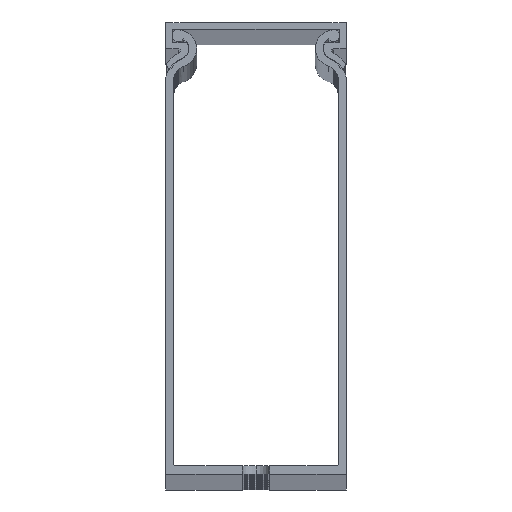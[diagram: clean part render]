
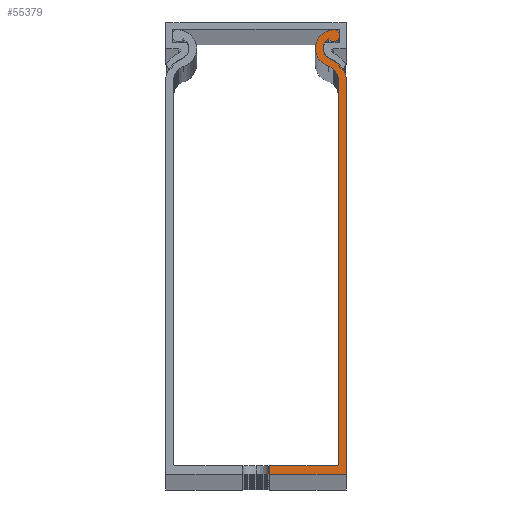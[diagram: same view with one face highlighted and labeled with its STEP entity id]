
A CAD part, top view. The second image highlights one B-rep face of the part: STEP entity #55379.
In plain terms, the highlighted planar face has unit normal (0, 0, 1).
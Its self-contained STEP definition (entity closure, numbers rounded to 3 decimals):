
#102 = CARTESIAN_POINT ( 'NONE',  ( 2584.527, 1293.474, 2000. ) ) ;
#500 = VERTEX_POINT ( 'NONE', #18729 ) ;
#2630 = PLANE ( 'NONE',  #16602 ) ;
#2652 = DIRECTION ( 'NONE',  ( 0., 1., 0. ) ) ;
#2683 = VECTOR ( 'NONE', #20155, 1000. ) ;
#3016 = VERTEX_POINT ( 'NONE', #35983 ) ;
#3104 = VERTEX_POINT ( 'NONE', #42812 ) ;
#3207 = VERTEX_POINT ( 'NONE', #43305 ) ;
#3462 = ORIENTED_EDGE ( 'NONE', *, *, #37895, .T. ) ;
#4241 = CARTESIAN_POINT ( 'NONE',  ( 2571.407, 1198.956, 2000. ) ) ;
#4716 = CARTESIAN_POINT ( 'NONE',  ( 2588.407, 1284.196, 2000. ) ) ;
#5355 = VERTEX_POINT ( 'NONE', #10616 ) ;
#8450 = VERTEX_POINT ( 'NONE', #38958 ) ;
#9179 = LINE ( 'NONE', #34416, #68796 ) ;
#9527 = ORIENTED_EDGE ( 'NONE', *, *, #16622, .T. ) ;
#10252 = VECTOR ( 'NONE', #63324, 1000. ) ;
#10609 = AXIS2_PLACEMENT_3D ( 'NONE', #38372, #62086, #45164 ) ;
#10616 = CARTESIAN_POINT ( 'NONE',  ( 2586.207, 1198.956, 2000. ) ) ;
#10898 = AXIS2_PLACEMENT_3D ( 'NONE', #46933, #12327, #12080 ) ;
#11216 = VECTOR ( 'NONE', #2652, 1000. ) ;
#12080 = DIRECTION ( 'NONE',  ( 1., 0., 0. ) ) ;
#12204 = AXIS2_PLACEMENT_3D ( 'NONE', #44964, #50760, #44722 ) ;
#12327 = DIRECTION ( 'NONE',  ( 0., 0., 1. ) ) ;
#13544 = ORIENTED_EDGE ( 'NONE', *, *, #52519, .T. ) ;
#14355 = CARTESIAN_POINT ( 'NONE',  ( 2586.707, 1284.203, 2000. ) ) ;
#14720 = CIRCLE ( 'NONE', #45336, 2.4 ) ;
#16602 = AXIS2_PLACEMENT_3D ( 'NONE', #20290, #71277, #36725 ) ;
#16622 = EDGE_CURVE ( 'NONE', #58955, #18721, #14720, .T. ) ;
#16778 = ORIENTED_EDGE ( 'NONE', *, *, #68363, .T. ) ;
#17094 = CARTESIAN_POINT ( 'NONE',  ( 2588.407, 1197.056, 2000. ) ) ;
#18721 = VERTEX_POINT ( 'NONE', #102 ) ;
#18729 = CARTESIAN_POINT ( 'NONE',  ( 2586.707, 1284.203, 2000. ) ) ;
#19854 = VECTOR ( 'NONE', #48719, 1000. ) ;
#19946 = CARTESIAN_POINT ( 'NONE',  ( 2588.407, 1197.056, 2000. ) ) ;
#20155 = DIRECTION ( 'NONE',  ( 1., 0., 0. ) ) ;
#20290 = CARTESIAN_POINT ( 'NONE',  ( 2553.507, 1284.233, 2000. ) ) ;
#21022 = EDGE_CURVE ( 'NONE', #74847, #58955, #39355, .T. ) ;
#21613 = ORIENTED_EDGE ( 'NONE', *, *, #53162, .T. ) ;
#22173 = CARTESIAN_POINT ( 'NONE',  ( 2585.655, 1291.356, 2000. ) ) ;
#24281 = CARTESIAN_POINT ( 'NONE',  ( 2585.655, 1291.356, 2000. ) ) ;
#24619 = EDGE_CURVE ( 'NONE', #3104, #8450, #59515, .T. ) ;
#25954 = DIRECTION ( 'NONE',  ( 1., 0., 0. ) ) ;
#26534 = VERTEX_POINT ( 'NONE', #4716 ) ;
#27003 = DIRECTION ( 'NONE',  ( 0., 0., -1. ) ) ;
#27939 = DIRECTION ( 'NONE',  ( 0., 0., 1. ) ) ;
#28024 = ORIENTED_EDGE ( 'NONE', *, *, #29823, .T. ) ;
#28414 = DIRECTION ( 'NONE',  ( -1., 0., 0. ) ) ;
#28782 = AXIS2_PLACEMENT_3D ( 'NONE', #62490, #27939, #62239 ) ;
#29491 = ORIENTED_EDGE ( 'NONE', *, *, #21022, .T. ) ;
#29823 = EDGE_CURVE ( 'NONE', #26534, #74847, #37968, .T. ) ;
#30714 = EDGE_CURVE ( 'NONE', #500, #63301, #46962, .T. ) ;
#32174 = ORIENTED_EDGE ( 'NONE', *, *, #66365, .T. ) ;
#32787 = DIRECTION ( 'NONE',  ( 1., 0., 0. ) ) ;
#33005 = VERTEX_POINT ( 'NONE', #19946 ) ;
#33053 = AXIS2_PLACEMENT_3D ( 'NONE', #72533, #43815, #25954 ) ;
#33196 = CIRCLE ( 'NONE', #10609, 3.4 ) ;
#33958 = CIRCLE ( 'NONE', #63075, 1.35 ) ;
#34416 = CARTESIAN_POINT ( 'NONE',  ( 2568.407, 1198.956, 2000. ) ) ;
#35852 = ORIENTED_EDGE ( 'NONE', *, *, #55236, .T. ) ;
#35983 = CARTESIAN_POINT ( 'NONE',  ( 2571.407, 1197.056, 2000. ) ) ;
#36725 = DIRECTION ( 'NONE',  ( 1., 0., 0. ) ) ;
#37391 = ORIENTED_EDGE ( 'NONE', *, *, #51775, .T. ) ;
#37831 = ORIENTED_EDGE ( 'NONE', *, *, #58794, .F. ) ;
#37895 = EDGE_CURVE ( 'NONE', #63301, #5355, #48106, .T. ) ;
#37968 = CIRCLE ( 'NONE', #28782, 5.1 ) ;
#38372 = CARTESIAN_POINT ( 'NONE',  ( 2583.307, 1284.233, 2000. ) ) ;
#38958 = CARTESIAN_POINT ( 'NONE',  ( 2581.555, 1291.356, 2000. ) ) ;
#39355 = CIRCLE ( 'NONE', #55698, 2.4 ) ;
#42040 = CARTESIAN_POINT ( 'NONE',  ( 2585.657, 1294.213, 2000. ) ) ;
#42812 = CARTESIAN_POINT ( 'NONE',  ( 2585.029, 1295.408, 2000. ) ) ;
#43305 = CARTESIAN_POINT ( 'NONE',  ( 2584.372, 1287.462, 2000. ) ) ;
#43788 = LINE ( 'NONE', #48097, #11216 ) ;
#43815 = DIRECTION ( 'NONE',  ( 0., 0., 1. ) ) ;
#44722 = DIRECTION ( 'NONE',  ( 1., 0., 0. ) ) ;
#44964 = CARTESIAN_POINT ( 'NONE',  ( 2586.207, 1199.456, 2000. ) ) ;
#45164 = DIRECTION ( 'NONE',  ( 1., 0., 0. ) ) ;
#45336 = AXIS2_PLACEMENT_3D ( 'NONE', #22173, #27003, #32787 ) ;
#46933 = CARTESIAN_POINT ( 'NONE',  ( 2585.655, 1291.356, 2000. ) ) ;
#46962 = LINE ( 'NONE', #14355, #19854 ) ;
#47884 = LINE ( 'NONE', #66323, #2683 ) ;
#48097 = CARTESIAN_POINT ( 'NONE',  ( 2571.407, 1284.233, 2000. ) ) ;
#48106 = CIRCLE ( 'NONE', #12204, 0.5 ) ;
#48719 = DIRECTION ( 'NONE',  ( 0., -1., 0. ) ) ;
#48968 = VERTEX_POINT ( 'NONE', #4241 ) ;
#49110 = LINE ( 'NONE', #17094, #10252 ) ;
#49629 = CIRCLE ( 'NONE', #33053, 4.1 ) ;
#50760 = DIRECTION ( 'NONE',  ( 0., 0., -1. ) ) ;
#51775 = EDGE_CURVE ( 'NONE', #5355, #48968, #9179, .T. ) ;
#52519 = EDGE_CURVE ( 'NONE', #3016, #33005, #47884, .T. ) ;
#53162 = EDGE_CURVE ( 'NONE', #8450, #3207, #49629, .T. ) ;
#53616 = DIRECTION ( 'NONE',  ( 0., 0., 1. ) ) ;
#55153 = CARTESIAN_POINT ( 'NONE',  ( 2583.255, 1291.356, 2000. ) ) ;
#55236 = EDGE_CURVE ( 'NONE', #18721, #3104, #33958, .T. ) ;
#55379 = ADVANCED_FACE ( 'NONE', ( #62832 ), #2630, .T. ) ;
#55698 = AXIS2_PLACEMENT_3D ( 'NONE', #24281, #64382, #70897 ) ;
#58794 = EDGE_CURVE ( 'NONE', #3016, #48968, #43788, .T. ) ;
#58955 = VERTEX_POINT ( 'NONE', #55153 ) ;
#59515 = CIRCLE ( 'NONE', #10898, 4.1 ) ;
#59572 = ORIENTED_EDGE ( 'NONE', *, *, #30714, .T. ) ;
#60776 = CARTESIAN_POINT ( 'NONE',  ( 2584.904, 1289.077, 2000. ) ) ;
#62086 = DIRECTION ( 'NONE',  ( 0., 0., -1. ) ) ;
#62239 = DIRECTION ( 'NONE',  ( 1., 0., 0. ) ) ;
#62490 = CARTESIAN_POINT ( 'NONE',  ( 2583.307, 1284.233, 2000. ) ) ;
#62832 = FACE_OUTER_BOUND ( 'NONE', #65314, .T. ) ;
#63075 = AXIS2_PLACEMENT_3D ( 'NONE', #42040, #53616, #64514 ) ;
#63301 = VERTEX_POINT ( 'NONE', #65523 ) ;
#63324 = DIRECTION ( 'NONE',  ( 0., 1., 0. ) ) ;
#64382 = DIRECTION ( 'NONE',  ( 0., 0., -1. ) ) ;
#64514 = DIRECTION ( 'NONE',  ( 1., 0., 0. ) ) ;
#65314 = EDGE_LOOP ( 'NONE', ( #37831, #13544, #32174, #28024, #29491, #9527, #35852, #73136, #21613, #16778, #59572, #3462, #37391 ) ) ;
#65523 = CARTESIAN_POINT ( 'NONE',  ( 2586.707, 1199.456, 2000. ) ) ;
#66323 = CARTESIAN_POINT ( 'NONE',  ( 2568.407, 1197.056, 2000. ) ) ;
#66365 = EDGE_CURVE ( 'NONE', #33005, #26534, #49110, .T. ) ;
#68363 = EDGE_CURVE ( 'NONE', #3207, #500, #33196, .T. ) ;
#68796 = VECTOR ( 'NONE', #28414, 1000. ) ;
#70897 = DIRECTION ( 'NONE',  ( 1., 0., 0. ) ) ;
#71277 = DIRECTION ( 'NONE',  ( 0., 0., 1. ) ) ;
#72533 = CARTESIAN_POINT ( 'NONE',  ( 2585.655, 1291.356, 2000. ) ) ;
#73136 = ORIENTED_EDGE ( 'NONE', *, *, #24619, .T. ) ;
#74847 = VERTEX_POINT ( 'NONE', #60776 ) ;
